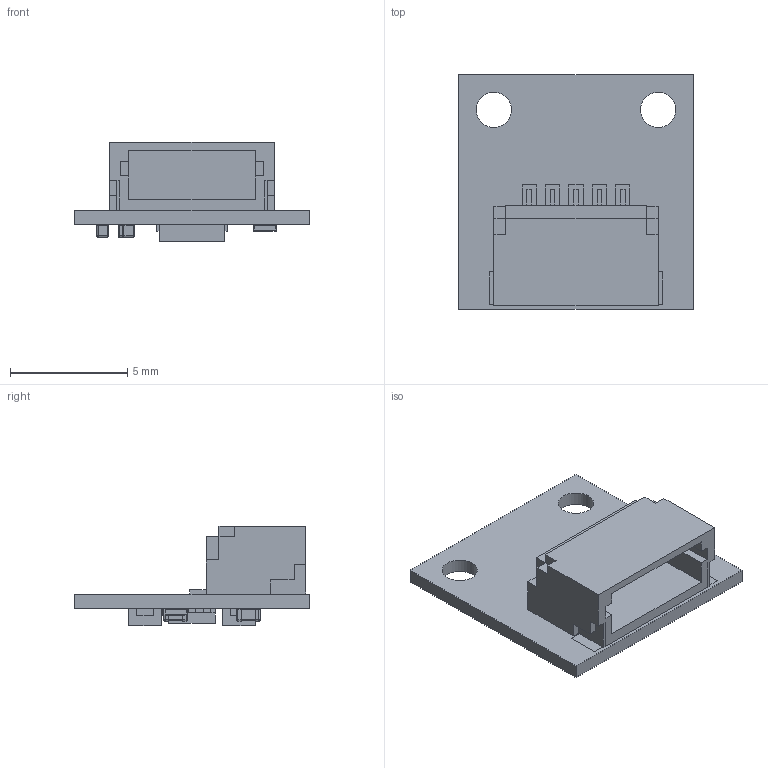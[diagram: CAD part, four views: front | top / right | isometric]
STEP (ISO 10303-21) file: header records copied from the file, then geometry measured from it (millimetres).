
FILE_DESCRIPTION(('FreeCAD Model'),'2;1');
FILE_NAME('/home/devy/MEGA/TinyCircuits/Assets/BoardsANDBoardModels_2/Wirelings/TinyCircuits-Wireling-Color-Sensor-AST1004/cad/Wireling_COLORSENSOR_AST1004-REV3-STEP.step','2020-07-24T09:08:37',('Author'),('' ),'Open CASCADE STEP processor 7.4','FreeCAD','Unknown');
FILE_SCHEMA(('AUTOMOTIVE_DESIGN { 1 0 10303 214 1 1 1 1 }'));
Products named in the file (1): Wireling_COLORSENSOR_AST1004-REV3-STEP
Bounding box: 10 x 10 x 4.25 mm (x, y, z)
Volume: 170.4 mm3; surface area: 747.5 mm2
Topology: 104 solids, 104 shells, 1116 faces, 3518 edges, 3436 vertices
Faces by surface type: plane 898, cylinder 170, sphere 48
Full cylindrical faces by diameter (mm): 1.502 x2
Entity records: 86888 total; most frequent: CARTESIAN_POINT 15179, DIRECTION 11064, LINE 7186, VECTOR 7186, ORIENTED_EDGE 5116, PCURVE 5116, DEFINITIONAL_REPRESENTATION 5116, EDGE_CURVE 2558
